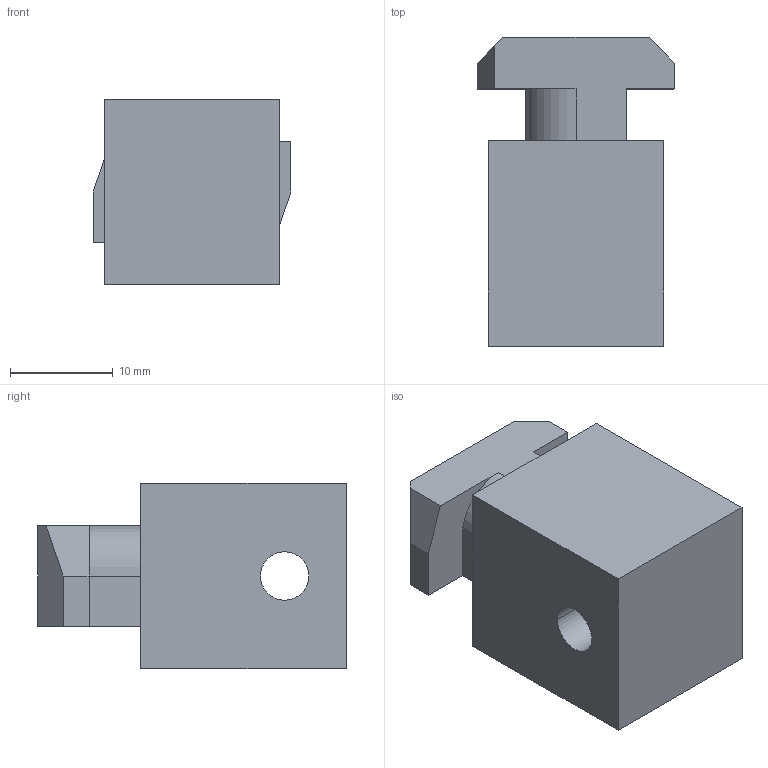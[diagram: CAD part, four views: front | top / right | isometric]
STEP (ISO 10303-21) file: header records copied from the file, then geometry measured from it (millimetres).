
FILE_DESCRIPTION((''),'2;1');
FILE_NAME('BFP10','2002-12-27T',('Lipro doo'),('Lipro d.o.o.'),'PRO/ENGINEER BY PARAMETRIC TECHNOLOGY CORPORATION, 2001150','PRO/ENGINEER BY PARAMETRIC TECHNOLOGY CORPORATION, 2001150','');
FILE_SCHEMA(('CONFIG_CONTROL_DESIGN'));
Length unit declared in the file: millimetre
Products named in the file (1): BFP10
Bounding box: 19.2 x 30 x 18 mm (x, y, z)
Volume: 7108 mm3; surface area: 2835.8 mm2
Topology: 1 solids, 1 shells, 23 faces, 60 edges, 40 vertices
Faces by surface type: plane 19, cylinder 4
Entity records: 744 total; most frequent: CARTESIAN_POINT 123, ORIENTED_EDGE 120, DIRECTION 114, EDGE_CURVE 60, VECTOR 52, LINE 52, VERTEX_POINT 40, AXIS2_PLACEMENT_3D 31
